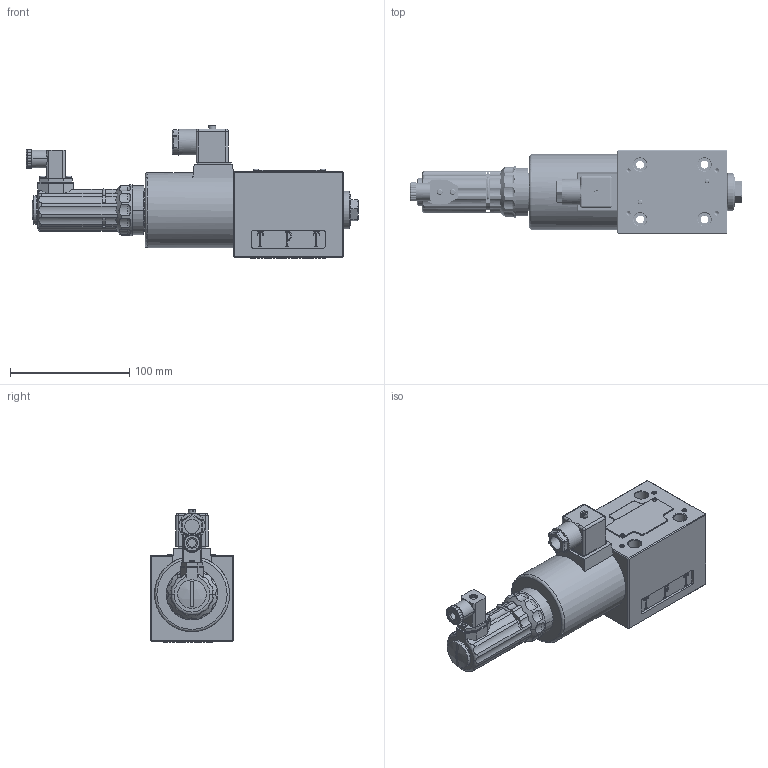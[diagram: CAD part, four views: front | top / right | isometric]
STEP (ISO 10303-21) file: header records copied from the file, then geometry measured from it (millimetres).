
FILE_DESCRIPTION(/* description */ (''),/* implementation_level */ '2;1');
FILE_NAME(/* name */ '4WRE10A-2XJ比例换向阀.prt.stp',/* time_stamp */ '2022-03-30T18:36:16+08:00',/* author */ (''),/* organization */ (''),/* preprocessor_version */ 'ST-DEVELOPER v16.7',/* originating_system */ 'SIEMENS PLM Software NX 12.0',/* authorisation */ '');
FILE_SCHEMA (('AUTOMOTIVE_DESIGN { 1 0 10303 214 3 1 1 1 }'));
Products named in the file (1): 4WRE10A-2XJ比例换向阀
Bounding box: 278.7 x 70 x 111.5 mm (x, y, z)
Volume: 634178.5 mm3; surface area: 146234.4 mm2
Topology: 26 solids, 38 shells, 1315 faces, 3371 edges, 2164 vertices
Faces by surface type: plane 626, cylinder 459, bspline 85, torus 80, cone 53, sphere 11, extrusion 1
Full cylindrical faces by diameter (mm): 0.8 x1, 1.8 x6, 2 x3, 2.55 x18, 2.8 x26, 3 x40, 3.2 x56, 3.5 x1, 3.6 x6, 5 x4, 6 x2, 6.5 x3, 6.6 x4, 8 x1, 11 x4, 12 x1, 12.085 x1, 15.7 x5, 16 x1, 16.5 x2, 17 x2, 18.376 x3, 21.4 x1, 22 x1, 24 x2, 25 x4, 26 x1, 31.5 x3, 32 x2, 63 x1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
Entity records: 87846 total; most frequent: CARTESIAN_POINT 60386, ORIENTED_EDGE 5470, DIRECTION 5309, EDGE_CURVE 2735, AXIS2_PLACEMENT_3D 1873, VERTEX_POINT 1837, VECTOR 1563, LINE 1562
